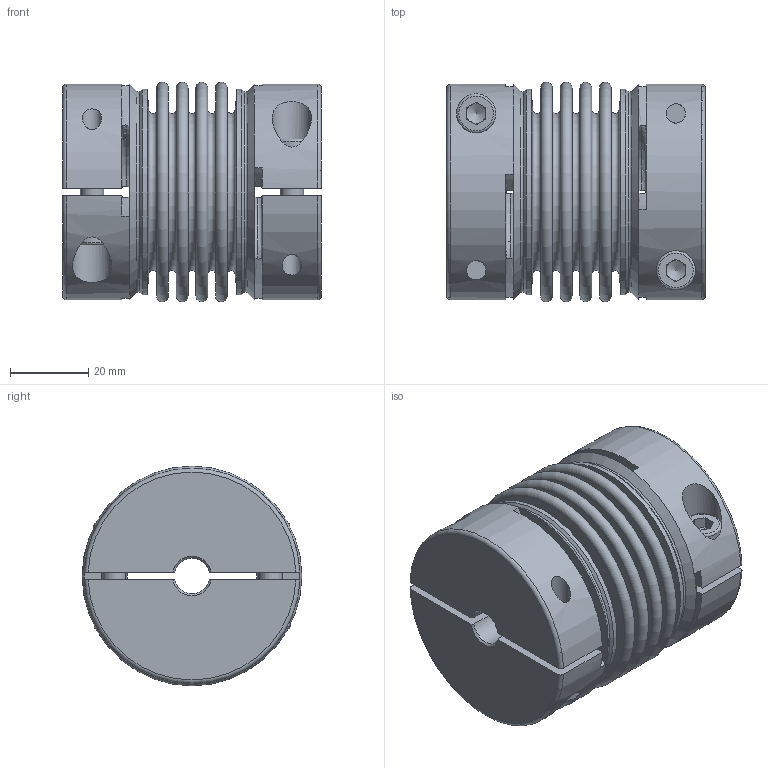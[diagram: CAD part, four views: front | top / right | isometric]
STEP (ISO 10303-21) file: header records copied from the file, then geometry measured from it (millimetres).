
FILE_DESCRIPTION(/* description */ ('Unknown','CAx-IF Rec.Pracs.---Representation and Presentation of Product Manufacturing Information (PMI)---4.0---2014-10-13','CAx-IF Rec.Pracs.---3D Tessellated Geometry---0.4---2014-09-14','2;1'),/* implementation_level */ '2;1');
FILE_NAME(/* name */ 'KG-HS 40 - 4W',/* time_stamp */ '2022-11-25T11:39:07+01:00',/* author */ ('Unknown'),/* organization */ ('Unknown'),/* preprocessor_version */ 'ST-DEVELOPER v18.102',/* originating_system */ 'Solid Edge',/* authorisation */ 'Unknown');
FILE_SCHEMA (('AP242_MANAGED_MODEL_BASED_3D_ENGINEERING_MIM_LF { 1 0 10303 442 1 1 4 }'));
Length unit declared in the file: millimetre
Products named in the file (1): 04824488
Bounding box: 65.95 x 56 x 56 mm (x, y, z)
Volume: 82980.5 mm3; surface area: 52104.6 mm2
Topology: 1 solids, 1 shells, 198 faces, 470 edges, 302 vertices
Faces by surface type: plane 102, cylinder 42, torus 34, cone 20
Full cylindrical faces by diameter (mm): 4.917 x8, 6 x4, 6.5 x4, 51.5 x2, 52.5 x2, 55 x2
Entity records: 7166 total; most frequent: CARTESIAN_POINT 1532, DIRECTION 900, ORIENTED_EDGE 764, EDGE_CURVE 382, AXIS2_PLACEMENT_3D 378, FACE_BOUND 300, EDGE_LOOP 296, VERTEX_POINT 278
